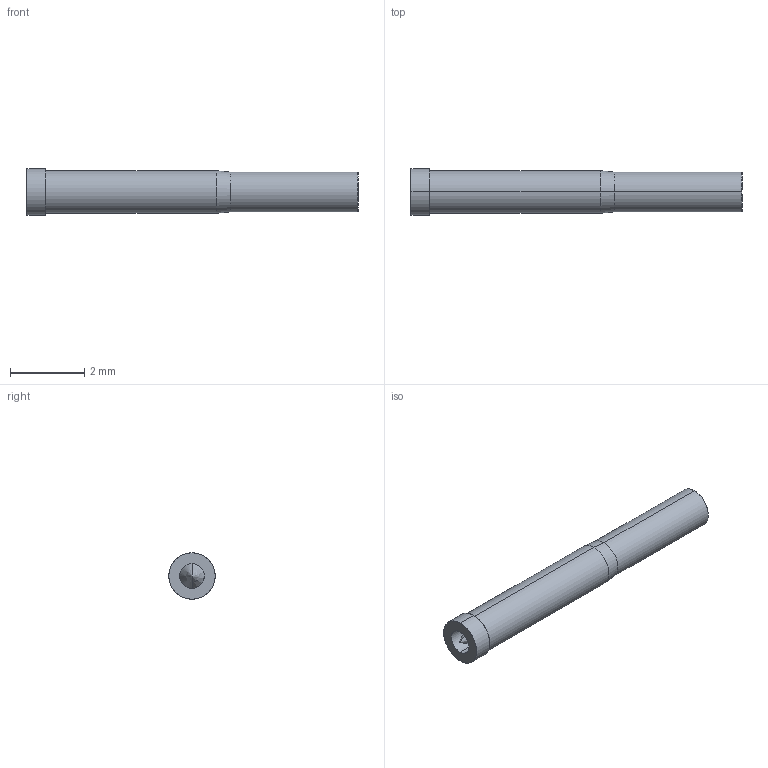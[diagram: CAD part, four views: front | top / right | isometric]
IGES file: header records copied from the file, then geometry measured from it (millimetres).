
Start section: SolidWorks IGES file using analytic representation for surfaces
Global section: file name: O:\PYLON\IGES FILES\C-S\C-S-C FULL.IGS; native system: SolidWorks 2015; preprocessor: SolidWorks 2015; author: kgolden; date: 171024.080708; units: inch
Bounding box: 8.92 x 1.24 x 1.24 mm (x, y, z)
Surface area: 39.4 mm2 (no closed solid volume)
Topology: 0 solids, 0 shells, 18 faces, 168 edges, 166 vertices
Faces by surface type: revolution 14, bspline 4
